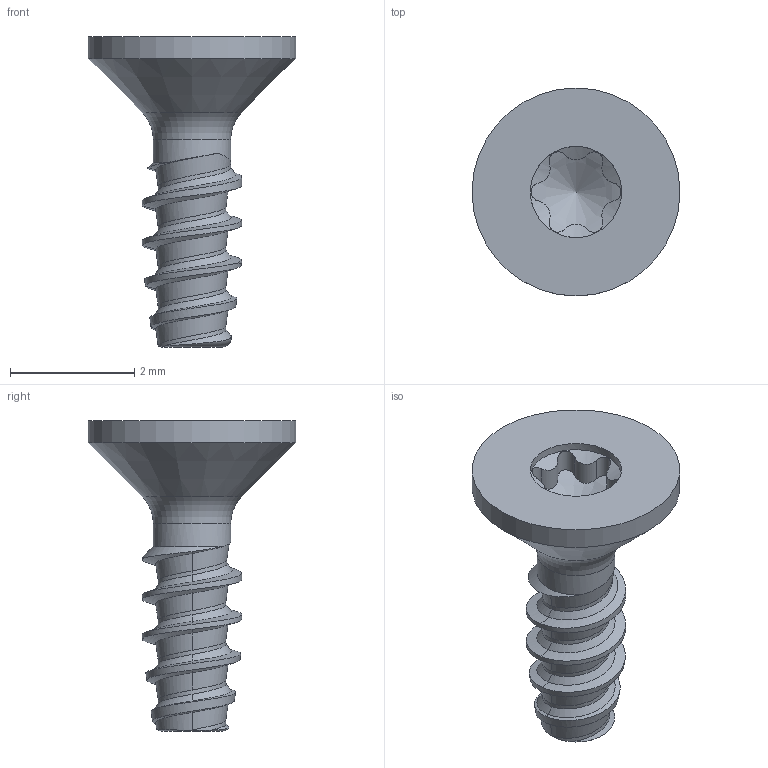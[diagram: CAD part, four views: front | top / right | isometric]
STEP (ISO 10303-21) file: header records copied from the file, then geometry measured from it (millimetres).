
FILE_DESCRIPTION(/* description */ (''),/* implementation_level */ '2;1');
FILE_NAME(/* name */ 'KN6041-STSplus16x5-T5.step',/* time_stamp */ '2017-10-12T08:39:18+02:00',/* author */ (''),/* organization */ (''),/* preprocessor_version */ 'ST-DEVELOPER v16',/* originating_system */ 'SIEMENS PLM Software NX 10.0',/* authorisation */ '');
FILE_SCHEMA (('AUTOMOTIVE_DESIGN { 1 0 10303 214 3 1 1 1 }'));
Length unit declared in the file: millimetre
Products named in the file (1): KN6041-STSplus16x5-T5
Bounding box: 3.35 x 3.35 x 5 mm (x, y, z)
Volume: 11.2 mm3; surface area: 45.7 mm2
Topology: 1 solids, 1 shells, 50 faces, 130 edges, 82 vertices
Faces by surface type: bspline 23, cylinder 17, cone 5, plane 3, torus 2
Full cylindrical faces by diameter (mm): 1.25 x1, 1.47 x1, 3.35 x1
Entity records: 3286 total; most frequent: CARTESIAN_POINT 2319, ORIENTED_EDGE 232, EDGE_CURVE 116, DIRECTION 110, VERTEX_POINT 77, B_SPLINE_CURVE_WITH_KNOTS 74, EDGE_LOOP 58, ADVANCED_FACE 50
